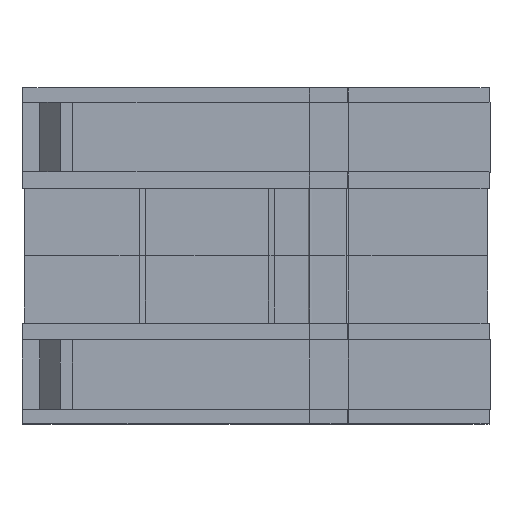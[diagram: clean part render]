
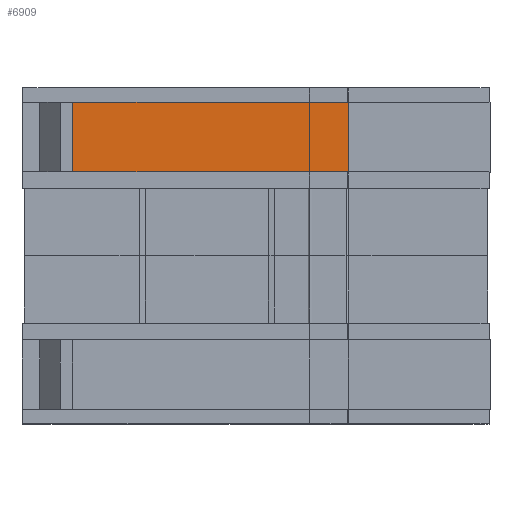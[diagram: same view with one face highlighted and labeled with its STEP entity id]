
A CAD part, top view. The second image highlights one B-rep face of the part: STEP entity #6909.
In plain terms, the highlighted planar face has unit normal (0, 0, 1).
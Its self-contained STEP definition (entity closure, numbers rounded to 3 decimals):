
#19=DIRECTION('',(-1.0,0.0,0.0));
#35=DIRECTION('',(0.0,0.0,1.0));
#118=DIRECTION('',(1.0,0.0,0.0));
#862=DIRECTION('',(0.0,1.0,0.0));
#1561=CARTESIAN_POINT('',(9.61,-0.875,-30.21));
#1563=VERTEX_POINT('',#1561);
#1566=VECTOR('',#118,11.48);
#1567=CARTESIAN_POINT('',(-1.87,-0.875,-30.21));
#1568=LINE('',#1567,#1566);
#1569=VERTEX_POINT('',#1567);
#1570=EDGE_CURVE('',#1569,#1563,#1568,.T.);
#1742=CARTESIAN_POINT('',(-1.87,2.025,-30.21));
#1744=VERTEX_POINT('',#1742);
#1747=VECTOR('',#19,11.48);
#1748=CARTESIAN_POINT('',(9.61,2.025,-30.21));
#1749=LINE('',#1748,#1747);
#1750=VERTEX_POINT('',#1748);
#1751=EDGE_CURVE('',#1750,#1744,#1749,.T.);
#6887=VECTOR('',#862,2.9);
#6888=LINE('',#1561,#6887);
#6889=EDGE_CURVE('',#1563,#1750,#6888,.T.);
#6898=ORIENTED_EDGE('',*,*,#1751,.T.);
#6899=VECTOR('',#862,2.9);
#6900=LINE('',#1567,#6899);
#6901=EDGE_CURVE('',#1569,#1744,#6900,.T.);
#6902=ORIENTED_EDGE('',*,*,#6901,.F.);
#6903=ORIENTED_EDGE('',*,*,#1570,.T.);
#6904=ORIENTED_EDGE('',*,*,#6889,.T.);
#6905=EDGE_LOOP('',(#6898,#6902,#6903,#6904));
#6906=FACE_OUTER_BOUND('',#6905,.T.);
#6907=AXIS2_PLACEMENT_3D('',#1748,#35,#118);
#6908=PLANE('',#6907);
#6909=ADVANCED_FACE('',(#6906),#6908,.T.);
